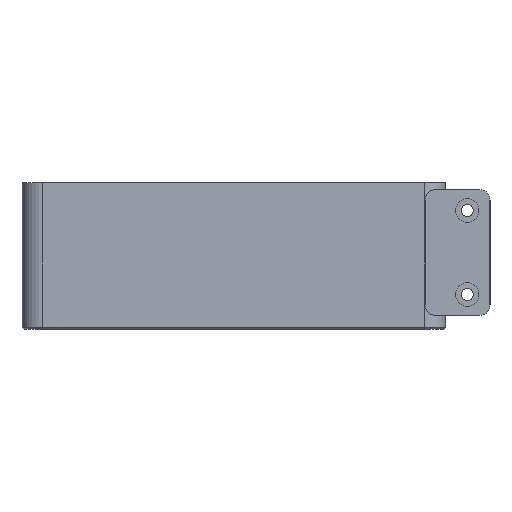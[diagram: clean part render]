
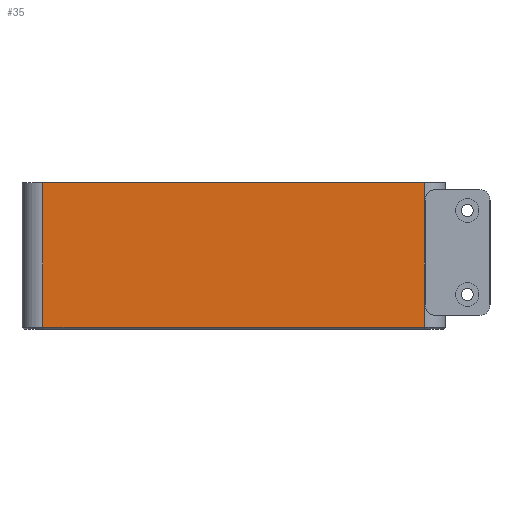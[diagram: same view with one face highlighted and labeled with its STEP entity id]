
A CAD part, left-side view. The second image highlights one B-rep face of the part: STEP entity #35.
In plain terms, the highlighted planar face has unit normal (-1, 0, 0).
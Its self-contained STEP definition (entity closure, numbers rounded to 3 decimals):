
#35 = ADVANCED_FACE('',(#36),#50,.F.);
#36 = FACE_BOUND('',#37,.F.);
#37 = EDGE_LOOP('',(#38,#73,#101,#129));
#38 = ORIENTED_EDGE('',*,*,#39,.F.);
#39 = EDGE_CURVE('',#40,#42,#44,.T.);
#40 = VERTEX_POINT('',#41);
#41 = CARTESIAN_POINT('',(-112.,78.15,-25.9));
#42 = VERTEX_POINT('',#43);
#43 = CARTESIAN_POINT('',(-112.,78.15,15.5));
#44 = SURFACE_CURVE('',#45,(#49,#61),.PCURVE_S1.);
#45 = LINE('',#46,#47);
#46 = CARTESIAN_POINT('',(-112.,78.15,-26.5));
#47 = VECTOR('',#48,1.);
#48 = DIRECTION('',(0.,0.,1.));
#49 = PCURVE('',#50,#55);
#50 = PLANE('',#51);
#51 = AXIS2_PLACEMENT_3D('',#52,#53,#54);
#52 = CARTESIAN_POINT('',(-112.,72.15,-26.5));
#53 = DIRECTION('',(1.,0.,0.));
#54 = DIRECTION('',(0.,0.,1.));
#55 = DEFINITIONAL_REPRESENTATION('',(#56),#60);
#56 = LINE('',#57,#58);
#57 = CARTESIAN_POINT('',(0.,-6.));
#58 = VECTOR('',#59,1.);
#59 = DIRECTION('',(1.,0.));
#60 = ( GEOMETRIC_REPRESENTATION_CONTEXT(2) 
PARAMETRIC_REPRESENTATION_CONTEXT() REPRESENTATION_CONTEXT('2D SPACE',''
  ) );
#61 = PCURVE('',#62,#67);
#62 = CYLINDRICAL_SURFACE('',#63,6.);
#63 = AXIS2_PLACEMENT_3D('',#64,#65,#66);
#64 = CARTESIAN_POINT('',(-106.,78.15,-26.5));
#65 = DIRECTION('',(0.,0.,1.));
#66 = DIRECTION('',(-1.,-0.,0.));
#67 = DEFINITIONAL_REPRESENTATION('',(#68),#72);
#68 = LINE('',#69,#70);
#69 = CARTESIAN_POINT('',(0.,0.));
#70 = VECTOR('',#71,1.);
#71 = DIRECTION('',(0.,1.));
#72 = ( GEOMETRIC_REPRESENTATION_CONTEXT(2) 
PARAMETRIC_REPRESENTATION_CONTEXT() REPRESENTATION_CONTEXT('2D SPACE',''
  ) );
#73 = ORIENTED_EDGE('',*,*,#74,.T.);
#74 = EDGE_CURVE('',#40,#75,#77,.T.);
#75 = VERTEX_POINT('',#76);
#76 = CARTESIAN_POINT('',(-112.,187.15,-25.9));
#77 = SURFACE_CURVE('',#78,(#82,#89),.PCURVE_S1.);
#78 = LINE('',#79,#80);
#79 = CARTESIAN_POINT('',(-112.,78.15,-25.9));
#80 = VECTOR('',#81,1.);
#81 = DIRECTION('',(0.,1.,0.));
#82 = PCURVE('',#50,#83);
#83 = DEFINITIONAL_REPRESENTATION('',(#84),#88);
#84 = LINE('',#85,#86);
#85 = CARTESIAN_POINT('',(0.6,-6.));
#86 = VECTOR('',#87,1.);
#87 = DIRECTION('',(0.,-1.));
#88 = ( GEOMETRIC_REPRESENTATION_CONTEXT(2) 
PARAMETRIC_REPRESENTATION_CONTEXT() REPRESENTATION_CONTEXT('2D SPACE',''
  ) );
#89 = PCURVE('',#90,#95);
#90 = PLANE('',#91);
#91 = AXIS2_PLACEMENT_3D('',#92,#93,#94);
#92 = CARTESIAN_POINT('',(-111.7,78.15,-26.2));
#93 = DIRECTION('',(-0.707,0.,-0.707));
#94 = DIRECTION('',(0.,1.,0.));
#95 = DEFINITIONAL_REPRESENTATION('',(#96),#100);
#96 = LINE('',#97,#98);
#97 = CARTESIAN_POINT('',(0.,-0.424));
#98 = VECTOR('',#99,1.);
#99 = DIRECTION('',(1.,0.));
#100 = ( GEOMETRIC_REPRESENTATION_CONTEXT(2) 
PARAMETRIC_REPRESENTATION_CONTEXT() REPRESENTATION_CONTEXT('2D SPACE',''
  ) );
#101 = ORIENTED_EDGE('',*,*,#102,.T.);
#102 = EDGE_CURVE('',#75,#103,#105,.T.);
#103 = VERTEX_POINT('',#104);
#104 = CARTESIAN_POINT('',(-112.,187.15,15.5));
#105 = SURFACE_CURVE('',#106,(#110,#117),.PCURVE_S1.);
#106 = LINE('',#107,#108);
#107 = CARTESIAN_POINT('',(-112.,187.15,-26.5));
#108 = VECTOR('',#109,1.);
#109 = DIRECTION('',(0.,0.,1.));
#110 = PCURVE('',#50,#111);
#111 = DEFINITIONAL_REPRESENTATION('',(#112),#116);
#112 = LINE('',#113,#114);
#113 = CARTESIAN_POINT('',(0.,-115.));
#114 = VECTOR('',#115,1.);
#115 = DIRECTION('',(1.,0.));
#116 = ( GEOMETRIC_REPRESENTATION_CONTEXT(2) 
PARAMETRIC_REPRESENTATION_CONTEXT() REPRESENTATION_CONTEXT('2D SPACE',''
  ) );
#117 = PCURVE('',#118,#123);
#118 = CYLINDRICAL_SURFACE('',#119,6.);
#119 = AXIS2_PLACEMENT_3D('',#120,#121,#122);
#120 = CARTESIAN_POINT('',(-106.,187.15,-26.5));
#121 = DIRECTION('',(0.,0.,1.));
#122 = DIRECTION('',(-1.,-0.,0.));
#123 = DEFINITIONAL_REPRESENTATION('',(#124),#128);
#124 = LINE('',#125,#126);
#125 = CARTESIAN_POINT('',(-0.,0.));
#126 = VECTOR('',#127,1.);
#127 = DIRECTION('',(-0.,1.));
#128 = ( GEOMETRIC_REPRESENTATION_CONTEXT(2) 
PARAMETRIC_REPRESENTATION_CONTEXT() REPRESENTATION_CONTEXT('2D SPACE',''
  ) );
#129 = ORIENTED_EDGE('',*,*,#130,.F.);
#130 = EDGE_CURVE('',#42,#103,#131,.T.);
#131 = SURFACE_CURVE('',#132,(#136,#143),.PCURVE_S1.);
#132 = LINE('',#133,#134);
#133 = CARTESIAN_POINT('',(-112.,72.15,15.5));
#134 = VECTOR('',#135,1.);
#135 = DIRECTION('',(0.,1.,0.));
#136 = PCURVE('',#50,#137);
#137 = DEFINITIONAL_REPRESENTATION('',(#138),#142);
#138 = LINE('',#139,#140);
#139 = CARTESIAN_POINT('',(42.,0.));
#140 = VECTOR('',#141,1.);
#141 = DIRECTION('',(0.,-1.));
#142 = ( GEOMETRIC_REPRESENTATION_CONTEXT(2) 
PARAMETRIC_REPRESENTATION_CONTEXT() REPRESENTATION_CONTEXT('2D SPACE',''
  ) );
#143 = PCURVE('',#144,#149);
#144 = PLANE('',#145);
#145 = AXIS2_PLACEMENT_3D('',#146,#147,#148);
#146 = CARTESIAN_POINT('',(-112.,72.15,15.5));
#147 = DIRECTION('',(0.,0.,1.));
#148 = DIRECTION('',(1.,0.,-0.));
#149 = DEFINITIONAL_REPRESENTATION('',(#150),#154);
#150 = LINE('',#151,#152);
#151 = CARTESIAN_POINT('',(0.,0.));
#152 = VECTOR('',#153,1.);
#153 = DIRECTION('',(0.,1.));
#154 = ( GEOMETRIC_REPRESENTATION_CONTEXT(2) 
PARAMETRIC_REPRESENTATION_CONTEXT() REPRESENTATION_CONTEXT('2D SPACE',''
  ) );
